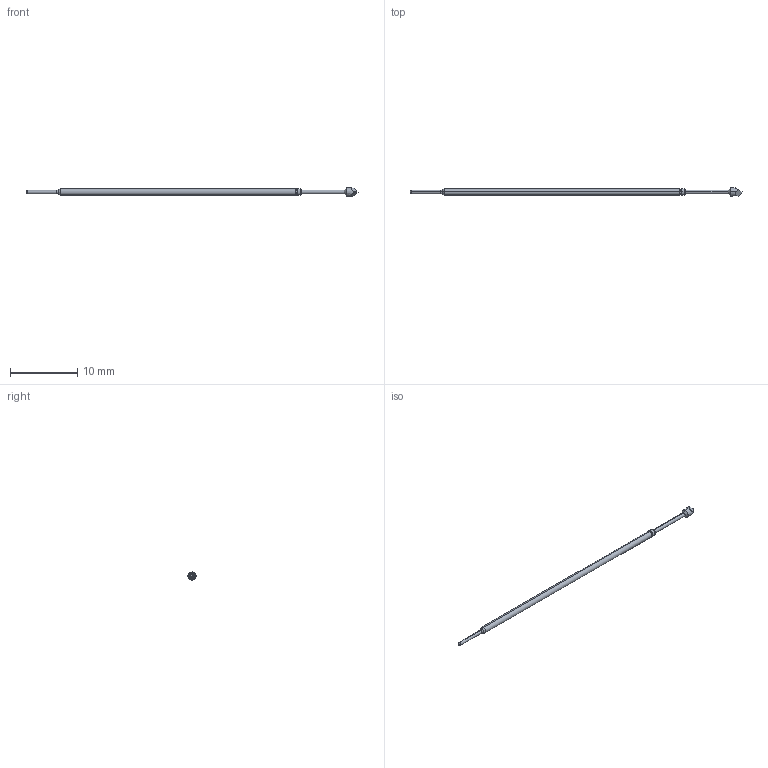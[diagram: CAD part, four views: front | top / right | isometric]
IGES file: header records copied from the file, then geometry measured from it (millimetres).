
Start section: SolidWorks IGES file using analytic representation for surfaces
Global section: file name: C:\Documents and Settings\mrumschlag\Desktop\changes\new\test\T.IGS; native system: SolidWorks 2011; preprocessor: SolidWorks 2011; author: mrumschlag; date: 110630.142315; units: inch
Bounding box: 49.28 x 1.19 x 1.19 mm (x, y, z)
Surface area: 135.8 mm2 (no closed solid volume)
Topology: 0 solids, 0 shells, 30 faces, 190 edges, 188 vertices
Faces by surface type: revolution 18, bspline 12
